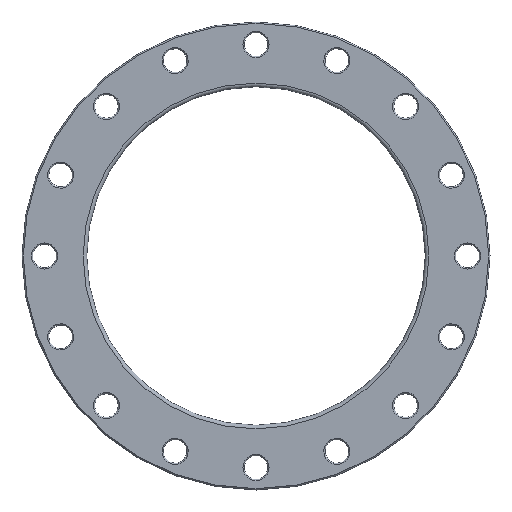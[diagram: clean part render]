
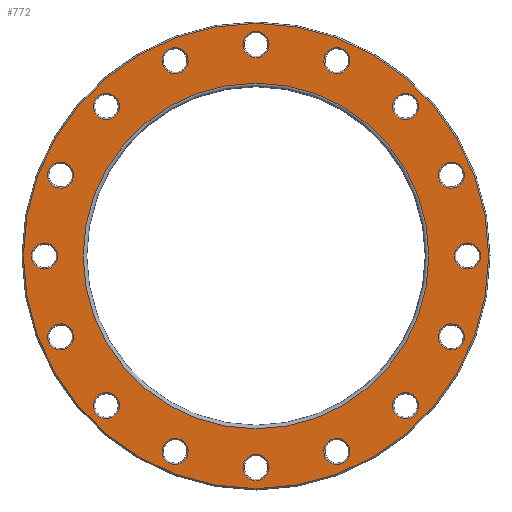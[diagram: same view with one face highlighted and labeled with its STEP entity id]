
A CAD part, front view. The second image highlights one B-rep face of the part: STEP entity #772.
In plain terms, the highlighted planar face has unit normal (0, -1, 0).
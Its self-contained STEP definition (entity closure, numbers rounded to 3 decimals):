
#23=PLANE('',#908);
#170=ORIENTED_EDGE('',*,*,#269,.T.);
#171=ORIENTED_EDGE('',*,*,#270,.T.);
#172=ORIENTED_EDGE('',*,*,#204,.T.);
#173=ORIENTED_EDGE('',*,*,#208,.T.);
#174=ORIENTED_EDGE('',*,*,#212,.T.);
#175=ORIENTED_EDGE('',*,*,#216,.T.);
#176=ORIENTED_EDGE('',*,*,#220,.T.);
#177=ORIENTED_EDGE('',*,*,#224,.T.);
#178=ORIENTED_EDGE('',*,*,#228,.T.);
#179=ORIENTED_EDGE('',*,*,#232,.T.);
#180=ORIENTED_EDGE('',*,*,#236,.T.);
#181=ORIENTED_EDGE('',*,*,#240,.T.);
#182=ORIENTED_EDGE('',*,*,#244,.T.);
#183=ORIENTED_EDGE('',*,*,#248,.T.);
#184=ORIENTED_EDGE('',*,*,#252,.T.);
#185=ORIENTED_EDGE('',*,*,#256,.T.);
#186=ORIENTED_EDGE('',*,*,#260,.T.);
#187=ORIENTED_EDGE('',*,*,#271,.T.);
#204=EDGE_CURVE('',#276,#276,#348,.T.);
#208=EDGE_CURVE('',#280,#280,#352,.T.);
#212=EDGE_CURVE('',#284,#284,#356,.T.);
#216=EDGE_CURVE('',#288,#288,#360,.T.);
#220=EDGE_CURVE('',#292,#292,#364,.T.);
#224=EDGE_CURVE('',#296,#296,#368,.T.);
#228=EDGE_CURVE('',#300,#300,#372,.T.);
#232=EDGE_CURVE('',#304,#304,#376,.T.);
#236=EDGE_CURVE('',#308,#308,#380,.T.);
#240=EDGE_CURVE('',#312,#312,#384,.T.);
#244=EDGE_CURVE('',#316,#316,#388,.T.);
#248=EDGE_CURVE('',#320,#320,#392,.T.);
#252=EDGE_CURVE('',#324,#324,#396,.T.);
#256=EDGE_CURVE('',#328,#328,#400,.T.);
#260=EDGE_CURVE('',#332,#332,#404,.T.);
#269=EDGE_CURVE('',#341,#341,#413,.F.);
#270=EDGE_CURVE('',#342,#342,#414,.T.);
#271=EDGE_CURVE('',#343,#343,#415,.T.);
#276=VERTEX_POINT('',#1187);
#280=VERTEX_POINT('',#1198);
#284=VERTEX_POINT('',#1209);
#288=VERTEX_POINT('',#1220);
#292=VERTEX_POINT('',#1231);
#296=VERTEX_POINT('',#1242);
#300=VERTEX_POINT('',#1253);
#304=VERTEX_POINT('',#1264);
#308=VERTEX_POINT('',#1275);
#312=VERTEX_POINT('',#1286);
#316=VERTEX_POINT('',#1297);
#320=VERTEX_POINT('',#1308);
#324=VERTEX_POINT('',#1319);
#328=VERTEX_POINT('',#1330);
#332=VERTEX_POINT('',#1341);
#341=VERTEX_POINT('',#1364);
#342=VERTEX_POINT('',#1366);
#343=VERTEX_POINT('',#1368);
#348=CIRCLE('',#797,14.5);
#352=CIRCLE('',#804,14.5);
#356=CIRCLE('',#811,14.5);
#360=CIRCLE('',#818,14.5);
#364=CIRCLE('',#825,14.5);
#368=CIRCLE('',#832,14.5);
#372=CIRCLE('',#839,14.5);
#376=CIRCLE('',#846,14.5);
#380=CIRCLE('',#853,14.5);
#384=CIRCLE('',#860,14.5);
#388=CIRCLE('',#867,14.5);
#392=CIRCLE('',#874,14.5);
#396=CIRCLE('',#881,14.5);
#400=CIRCLE('',#888,14.5);
#404=CIRCLE('',#895,14.5);
#413=CIRCLE('',#909,258.5);
#414=CIRCLE('',#910,192.);
#415=CIRCLE('',#911,14.5);
#530=EDGE_LOOP('',(#170));
#531=EDGE_LOOP('',(#171));
#532=EDGE_LOOP('',(#172));
#533=EDGE_LOOP('',(#173));
#534=EDGE_LOOP('',(#174));
#535=EDGE_LOOP('',(#175));
#536=EDGE_LOOP('',(#176));
#537=EDGE_LOOP('',(#177));
#538=EDGE_LOOP('',(#178));
#539=EDGE_LOOP('',(#179));
#540=EDGE_LOOP('',(#180));
#541=EDGE_LOOP('',(#181));
#542=EDGE_LOOP('',(#182));
#543=EDGE_LOOP('',(#183));
#544=EDGE_LOOP('',(#184));
#545=EDGE_LOOP('',(#185));
#546=EDGE_LOOP('',(#186));
#547=EDGE_LOOP('',(#187));
#674=FACE_BOUND('',#530,.T.);
#675=FACE_BOUND('',#531,.T.);
#676=FACE_BOUND('',#532,.T.);
#677=FACE_BOUND('',#533,.T.);
#678=FACE_BOUND('',#534,.T.);
#679=FACE_BOUND('',#535,.T.);
#680=FACE_BOUND('',#536,.T.);
#681=FACE_BOUND('',#537,.T.);
#682=FACE_BOUND('',#538,.T.);
#683=FACE_BOUND('',#539,.T.);
#684=FACE_BOUND('',#540,.T.);
#685=FACE_BOUND('',#541,.T.);
#686=FACE_BOUND('',#542,.T.);
#687=FACE_BOUND('',#543,.T.);
#688=FACE_BOUND('',#544,.T.);
#689=FACE_BOUND('',#545,.T.);
#690=FACE_BOUND('',#546,.T.);
#691=FACE_BOUND('',#547,.T.);
#772=ADVANCED_FACE('',(#674,#675,#676,#677,#678,#679,#680,#681,#682,#683,
#684,#685,#686,#687,#688,#689,#690,#691),#23,.F.);
#797=AXIS2_PLACEMENT_3D('',#1186,#931,#932);
#804=AXIS2_PLACEMENT_3D('',#1197,#945,#946);
#811=AXIS2_PLACEMENT_3D('',#1208,#959,#960);
#818=AXIS2_PLACEMENT_3D('',#1219,#973,#974);
#825=AXIS2_PLACEMENT_3D('',#1230,#987,#988);
#832=AXIS2_PLACEMENT_3D('',#1241,#1001,#1002);
#839=AXIS2_PLACEMENT_3D('',#1252,#1015,#1016);
#846=AXIS2_PLACEMENT_3D('',#1263,#1029,#1030);
#853=AXIS2_PLACEMENT_3D('',#1274,#1043,#1044);
#860=AXIS2_PLACEMENT_3D('',#1285,#1057,#1058);
#867=AXIS2_PLACEMENT_3D('',#1296,#1071,#1072);
#874=AXIS2_PLACEMENT_3D('',#1307,#1085,#1086);
#881=AXIS2_PLACEMENT_3D('',#1318,#1099,#1100);
#888=AXIS2_PLACEMENT_3D('',#1329,#1113,#1114);
#895=AXIS2_PLACEMENT_3D('',#1340,#1127,#1128);
#908=AXIS2_PLACEMENT_3D('',#1362,#1153,#1154);
#909=AXIS2_PLACEMENT_3D('',#1363,#1155,#1156);
#910=AXIS2_PLACEMENT_3D('',#1365,#1157,#1158);
#911=AXIS2_PLACEMENT_3D('',#1367,#1159,#1160);
#931=DIRECTION('',(0.,1.,0.));
#932=DIRECTION('',(0.924,0.,0.383));
#945=DIRECTION('',(0.,1.,0.));
#946=DIRECTION('',(0.707,0.,0.707));
#959=DIRECTION('',(0.,1.,0.));
#960=DIRECTION('',(0.383,0.,0.924));
#973=DIRECTION('',(0.,1.,0.));
#974=DIRECTION('',(0.,0.,1.));
#987=DIRECTION('',(0.,1.,0.));
#988=DIRECTION('',(-0.383,0.,0.924));
#1001=DIRECTION('',(0.,1.,0.));
#1002=DIRECTION('',(-0.707,0.,0.707));
#1015=DIRECTION('',(0.,1.,0.));
#1016=DIRECTION('',(-0.924,0.,0.383));
#1029=DIRECTION('',(0.,1.,0.));
#1030=DIRECTION('',(-1.,0.,0.));
#1043=DIRECTION('',(0.,1.,0.));
#1044=DIRECTION('',(-0.924,0.,-0.383));
#1057=DIRECTION('',(0.,1.,0.));
#1058=DIRECTION('',(-0.707,0.,-0.707));
#1071=DIRECTION('',(0.,1.,0.));
#1072=DIRECTION('',(-0.383,0.,-0.924));
#1085=DIRECTION('',(0.,1.,0.));
#1086=DIRECTION('',(0.,0.,-1.));
#1099=DIRECTION('',(0.,1.,0.));
#1100=DIRECTION('',(0.383,0.,-0.924));
#1113=DIRECTION('',(0.,1.,0.));
#1114=DIRECTION('',(0.707,0.,-0.707));
#1127=DIRECTION('',(0.,1.,0.));
#1128=DIRECTION('',(0.924,0.,-0.383));
#1153=DIRECTION('',(0.,1.,0.));
#1154=DIRECTION('',(0.,0.,1.));
#1155=DIRECTION('',(0.,1.,0.));
#1156=DIRECTION('',(0.,0.,1.));
#1157=DIRECTION('',(0.,1.,0.));
#1158=DIRECTION('',(0.,0.,1.));
#1159=DIRECTION('',(0.,1.,0.));
#1160=DIRECTION('',(1.,0.,0.));
#1186=CARTESIAN_POINT('',(-89.931,0.,217.112));
#1187=CARTESIAN_POINT('',(-76.534,0.,222.661));
#1197=CARTESIAN_POINT('',(-166.17,0.,166.17));
#1198=CARTESIAN_POINT('',(-155.917,0.,176.423));
#1208=CARTESIAN_POINT('',(-217.112,0.,89.931));
#1209=CARTESIAN_POINT('',(-211.563,0.,103.327));
#1219=CARTESIAN_POINT('',(-235.,0.,0.));
#1220=CARTESIAN_POINT('',(-235.,0.,14.5));
#1230=CARTESIAN_POINT('',(-217.112,0.,-89.931));
#1231=CARTESIAN_POINT('',(-222.661,0.,-76.534));
#1241=CARTESIAN_POINT('',(-166.17,0.,-166.17));
#1242=CARTESIAN_POINT('',(-176.423,0.,-155.917));
#1252=CARTESIAN_POINT('',(-89.931,0.,-217.112));
#1253=CARTESIAN_POINT('',(-103.327,0.,-211.563));
#1263=CARTESIAN_POINT('',(0.,0.,-235.));
#1264=CARTESIAN_POINT('',(-14.5,0.,-235.));
#1274=CARTESIAN_POINT('',(89.931,0.,-217.112));
#1275=CARTESIAN_POINT('',(76.534,0.,-222.661));
#1285=CARTESIAN_POINT('',(166.17,0.,-166.17));
#1286=CARTESIAN_POINT('',(155.917,0.,-176.423));
#1296=CARTESIAN_POINT('',(217.112,0.,-89.931));
#1297=CARTESIAN_POINT('',(211.563,0.,-103.327));
#1307=CARTESIAN_POINT('',(235.,0.,0.));
#1308=CARTESIAN_POINT('',(235.,0.,-14.5));
#1318=CARTESIAN_POINT('',(217.112,0.,89.931));
#1319=CARTESIAN_POINT('',(222.661,0.,76.534));
#1329=CARTESIAN_POINT('',(166.17,0.,166.17));
#1330=CARTESIAN_POINT('',(176.423,0.,155.917));
#1340=CARTESIAN_POINT('',(89.931,0.,217.112));
#1341=CARTESIAN_POINT('',(103.327,0.,211.563));
#1362=CARTESIAN_POINT('',(0.,0.,0.));
#1363=CARTESIAN_POINT('',(0.,0.,0.));
#1364=CARTESIAN_POINT('',(0.,0.,258.5));
#1365=CARTESIAN_POINT('',(0.,0.,0.));
#1366=CARTESIAN_POINT('',(0.,0.,192.));
#1367=CARTESIAN_POINT('',(0.,0.,235.));
#1368=CARTESIAN_POINT('',(14.5,0.,235.));
